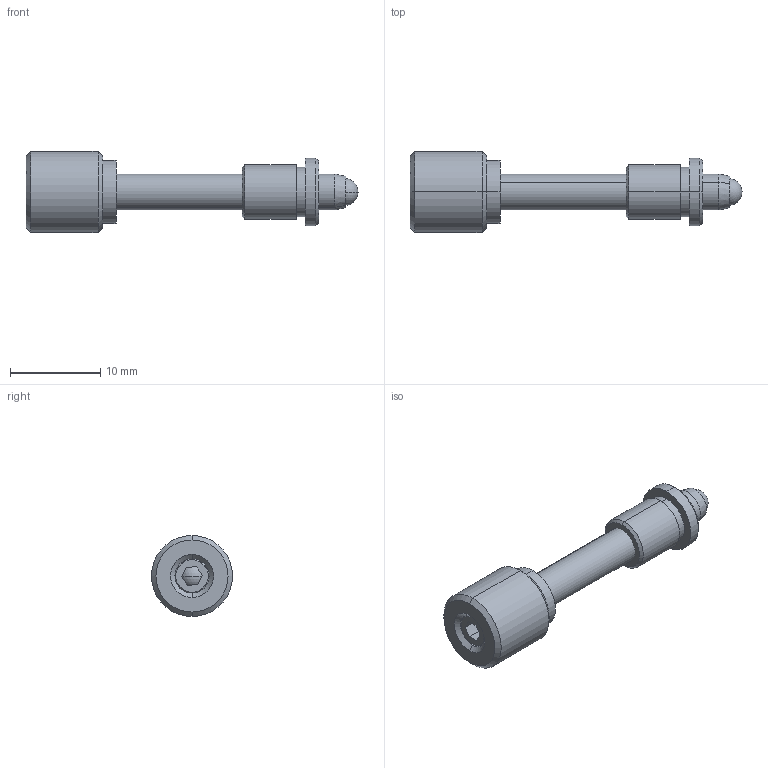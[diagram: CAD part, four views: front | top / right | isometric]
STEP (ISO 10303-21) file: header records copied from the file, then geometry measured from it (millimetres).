
FILE_DESCRIPTION (( 'STEP AP203' ), '1' );
FILE_NAME ('NAFS13-M4-0.2P.STEP', '2021-02-24T00:48:36', ( '' ), ( '' ), 'SwSTEP 2.0', 'SolidWorks 2016', '' );
FILE_SCHEMA (( 'CONFIG_CONTROL_DESIGN' ));
Length unit declared in the file: millimetre
Products named in the file (1): NAFS13-M4-0.2P
Bounding box: 36.87 x 9 x 9 mm (x, y, z)
Surface area: 1214.8 mm2 (no closed solid volume)
Topology: 0 solids, 4 shells, 45 faces, 101 edges, 65 vertices
Faces by surface type: plane 15, cylinder 14, cone 14, sphere 2
Entity records: 1300 total; most frequent: DIRECTION 238, CARTESIAN_POINT 204, ORIENTED_EDGE 180, EDGE_CURVE 96, AXIS2_PLACEMENT_3D 96, VERTEX_POINT 62, EDGE_LOOP 54, CIRCLE 50
